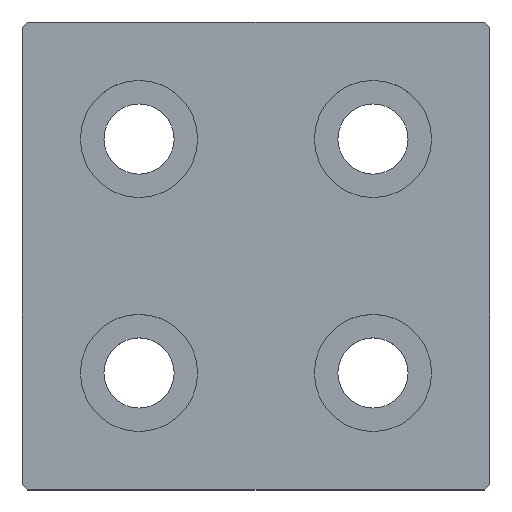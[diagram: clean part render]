
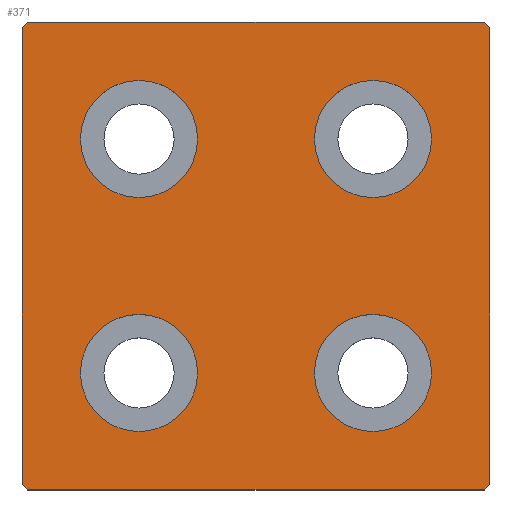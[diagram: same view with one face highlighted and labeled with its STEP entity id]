
A CAD part, top view. The second image highlights one B-rep face of the part: STEP entity #371.
In plain terms, the highlighted planar face has unit normal (0, 0, 1).
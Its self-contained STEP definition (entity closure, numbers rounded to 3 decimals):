
#19=FACE_BOUND('',#78,.T.);
#20=FACE_BOUND('',#79,.T.);
#21=FACE_BOUND('',#80,.T.);
#22=FACE_BOUND('',#81,.T.);
#33=PLANE('',#419);
#51=FACE_OUTER_BOUND('',#77,.T.);
#77=EDGE_LOOP('',(#289,#290,#291,#292,#293,#294,#295,#296));
#78=EDGE_LOOP('',(#297));
#79=EDGE_LOOP('',(#298));
#80=EDGE_LOOP('',(#299));
#81=EDGE_LOOP('',(#300));
#101=LINE('',#585,#133);
#105=LINE('',#593,#137);
#108=LINE('',#599,#140);
#109=LINE('',#601,#141);
#110=LINE('',#603,#142);
#111=LINE('',#605,#143);
#112=LINE('',#607,#144);
#113=LINE('',#608,#145);
#133=VECTOR('',#483,10.);
#137=VECTOR('',#489,10.);
#140=VECTOR('',#494,10.);
#141=VECTOR('',#495,10.);
#142=VECTOR('',#496,10.);
#143=VECTOR('',#497,10.);
#144=VECTOR('',#498,10.);
#145=VECTOR('',#499,10.);
#161=CIRCLE('',#398,5.);
#164=CIRCLE('',#403,5.);
#167=CIRCLE('',#408,5.);
#170=CIRCLE('',#413,5.);
#177=VERTEX_POINT('',#547);
#180=VERTEX_POINT('',#556);
#183=VERTEX_POINT('',#565);
#186=VERTEX_POINT('',#574);
#189=VERTEX_POINT('',#583);
#190=VERTEX_POINT('',#584);
#193=VERTEX_POINT('',#592);
#195=VERTEX_POINT('',#598);
#196=VERTEX_POINT('',#600);
#197=VERTEX_POINT('',#602);
#198=VERTEX_POINT('',#604);
#199=VERTEX_POINT('',#606);
#209=EDGE_CURVE('',#177,#177,#161,.T.);
#213=EDGE_CURVE('',#180,#180,#164,.T.);
#217=EDGE_CURVE('',#183,#183,#167,.T.);
#221=EDGE_CURVE('',#186,#186,#170,.T.);
#225=EDGE_CURVE('',#189,#190,#101,.T.);
#229=EDGE_CURVE('',#193,#190,#105,.T.);
#232=EDGE_CURVE('',#189,#195,#108,.T.);
#233=EDGE_CURVE('',#196,#195,#109,.T.);
#234=EDGE_CURVE('',#196,#197,#110,.T.);
#235=EDGE_CURVE('',#198,#197,#111,.T.);
#236=EDGE_CURVE('',#198,#199,#112,.T.);
#237=EDGE_CURVE('',#193,#199,#113,.T.);
#289=ORIENTED_EDGE('',*,*,#225,.F.);
#290=ORIENTED_EDGE('',*,*,#232,.T.);
#291=ORIENTED_EDGE('',*,*,#233,.F.);
#292=ORIENTED_EDGE('',*,*,#234,.T.);
#293=ORIENTED_EDGE('',*,*,#235,.F.);
#294=ORIENTED_EDGE('',*,*,#236,.T.);
#295=ORIENTED_EDGE('',*,*,#237,.F.);
#296=ORIENTED_EDGE('',*,*,#229,.T.);
#297=ORIENTED_EDGE('',*,*,#209,.T.);
#298=ORIENTED_EDGE('',*,*,#213,.T.);
#299=ORIENTED_EDGE('',*,*,#217,.T.);
#300=ORIENTED_EDGE('',*,*,#221,.T.);
#371=ADVANCED_FACE('',(#51,#19,#20,#21,#22),#33,.T.);
#398=AXIS2_PLACEMENT_3D('',#548,#439,#440);
#403=AXIS2_PLACEMENT_3D('',#557,#450,#451);
#408=AXIS2_PLACEMENT_3D('',#566,#461,#462);
#413=AXIS2_PLACEMENT_3D('',#575,#472,#473);
#419=AXIS2_PLACEMENT_3D('',#597,#492,#493);
#439=DIRECTION('center_axis',(0.,0.,-1.));
#440=DIRECTION('ref_axis',(-1.,0.,0.));
#450=DIRECTION('center_axis',(0.,0.,-1.));
#451=DIRECTION('ref_axis',(-1.,0.,0.));
#461=DIRECTION('center_axis',(0.,0.,-1.));
#462=DIRECTION('ref_axis',(-1.,0.,0.));
#472=DIRECTION('center_axis',(0.,0.,-1.));
#473=DIRECTION('ref_axis',(-1.,0.,0.));
#483=DIRECTION('',(-0.707,-0.707,0.));
#489=DIRECTION('',(1.,0.,0.));
#492=DIRECTION('center_axis',(0.,0.,1.));
#493=DIRECTION('ref_axis',(1.,0.,0.));
#494=DIRECTION('',(0.,1.,0.));
#495=DIRECTION('',(0.707,-0.707,0.));
#496=DIRECTION('',(-1.,0.,0.));
#497=DIRECTION('',(0.707,0.707,0.));
#498=DIRECTION('',(0.,-1.,0.));
#499=DIRECTION('',(-0.707,0.707,0.));
#547=CARTESIAN_POINT('',(-5.,-10.,3.));
#548=CARTESIAN_POINT('Origin',(-10.,-10.,3.));
#556=CARTESIAN_POINT('',(15.,-10.,3.));
#557=CARTESIAN_POINT('Origin',(10.,-10.,3.));
#565=CARTESIAN_POINT('',(-5.,10.,3.));
#566=CARTESIAN_POINT('Origin',(-10.,10.,3.));
#574=CARTESIAN_POINT('',(15.,10.,3.));
#575=CARTESIAN_POINT('Origin',(10.,10.,3.));
#583=CARTESIAN_POINT('',(20.,-19.5,3.));
#584=CARTESIAN_POINT('',(19.5,-20.,3.));
#585=CARTESIAN_POINT('',(19.75,-19.75,3.));
#592=CARTESIAN_POINT('',(-19.5,-20.,3.));
#593=CARTESIAN_POINT('',(20.,-20.,3.));
#597=CARTESIAN_POINT('Origin',(0.,0.,
3.));
#598=CARTESIAN_POINT('',(20.,19.5,3.));
#599=CARTESIAN_POINT('',(20.,20.,3.));
#600=CARTESIAN_POINT('',(19.5,20.,3.));
#601=CARTESIAN_POINT('',(19.75,19.75,3.));
#602=CARTESIAN_POINT('',(-19.5,20.,3.));
#603=CARTESIAN_POINT('',(-20.,20.,3.));
#604=CARTESIAN_POINT('',(-20.,19.5,3.));
#605=CARTESIAN_POINT('',(-19.75,19.75,3.));
#606=CARTESIAN_POINT('',(-20.,-19.5,3.));
#607=CARTESIAN_POINT('',(-20.,-20.,3.));
#608=CARTESIAN_POINT('',(-19.75,-19.75,3.));
